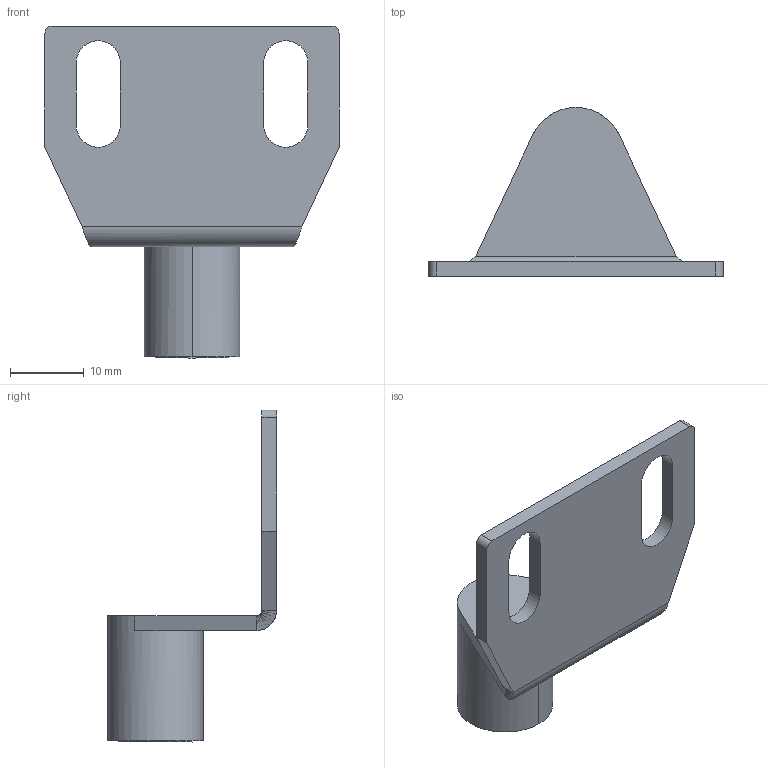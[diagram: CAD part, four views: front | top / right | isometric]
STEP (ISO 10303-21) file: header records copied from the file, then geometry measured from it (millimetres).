
FILE_DESCRIPTION (( 'STEP AP214' ), '1' );
FILE_NAME ('1.4038 Ovimagneetti T 13X15.STEP', '2025-09-15T07:04:07', ( '' ), ( '' ), 'SwSTEP 2.0', 'SolidWorks 2025', '' );
FILE_SCHEMA (( 'AUTOMOTIVE_DESIGN' ));
Length unit declared in the file: millimetre
Products named in the file (1): 1.4038 Ovimagneetti T 13X15
Bounding box: 40 x 23 x 45.15 mm (x, y, z)
Volume: 4621.6 mm3; surface area: 3686.1 mm2
Topology: 1 solids, 1 shells, 33 faces, 82 edges, 52 vertices
Faces by surface type: plane 17, cylinder 14, bspline 2
Entity records: 1069 total; most frequent: CARTESIAN_POINT 250, ORIENTED_EDGE 164, DIRECTION 164, EDGE_CURVE 82, AXIS2_PLACEMENT_3D 58, VERTEX_POINT 52, VECTOR 48, LINE 48
